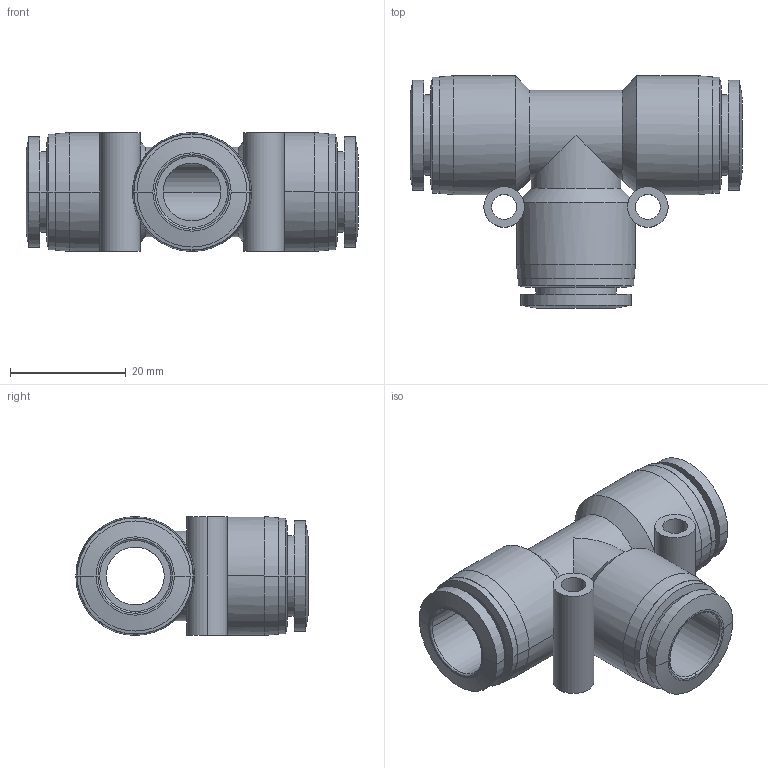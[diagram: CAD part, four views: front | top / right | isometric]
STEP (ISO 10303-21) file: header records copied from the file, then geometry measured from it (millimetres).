
FILE_DESCRIPTION (( 'STEP AP203' ), '1' );
FILE_NAME ('FT12-00.STEP', '2020-05-06T15:26:39', ( '' ), ( '' ), 'SwSTEP 2.0', 'SolidWorks 2019', '' );
FILE_SCHEMA (( 'CONFIG_CONTROL_DESIGN' ));
Length unit declared in the file: millimetre
Products named in the file (1): FT12-00
Bounding box: 57.3 x 40.1 x 20.5 mm (x, y, z)
Volume: 13823.6 mm3; surface area: 10329.8 mm2
Topology: 1 solids, 1 shells, 95 faces, 226 edges, 142 vertices
Faces by surface type: cylinder 46, cone 24, plane 19, bspline 6
Entity records: 3515 total; most frequent: CARTESIAN_POINT 1214, DIRECTION 490, ORIENTED_EDGE 452, EDGE_CURVE 226, AXIS2_PLACEMENT_3D 208, VERTEX_POINT 142, CIRCLE 118, EDGE_LOOP 116
